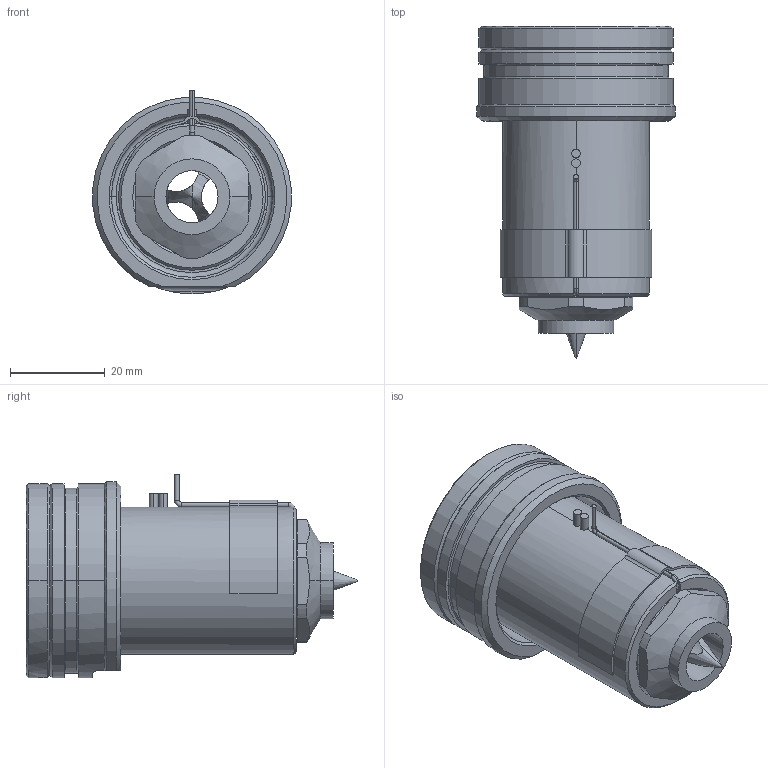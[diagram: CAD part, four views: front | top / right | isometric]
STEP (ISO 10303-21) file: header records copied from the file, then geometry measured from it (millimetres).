
FILE_DESCRIPTION((''),'2;1');
FILE_NAME('EO12_PG-BL_WR_050_SW','2024-02-19T11:13:33',('sundharh'),(''),'CREO PARAMETRIC BY PTC INC, 2023154','CREO PARAMETRIC BY PTC INC, 2023154','');
FILE_SCHEMA(('CONFIG_CONTROL_DESIGN'));
Length unit declared in the file: millimetre
Products named in the file (1): EO12_PG-BL_WR_050_SW
Bounding box: 41.85 x 70 x 43 mm (x, y, z)
Volume: 48521.8 mm3; surface area: 16988.5 mm2
Topology: 2 solids, 3 shells, 213 faces, 571 edges, 353 vertices
Faces by surface type: cylinder 80, plane 60, cone 41, torus 27, bspline 3, sphere 2
Entity records: 7697 total; most frequent: CARTESIAN_POINT 2235, DIRECTION 1201, ORIENTED_EDGE 1138, EDGE_CURVE 569, AXIS2_PLACEMENT_3D 505, VERTEX_POINT 353, CIRCLE 295, EDGE_LOOP 230
